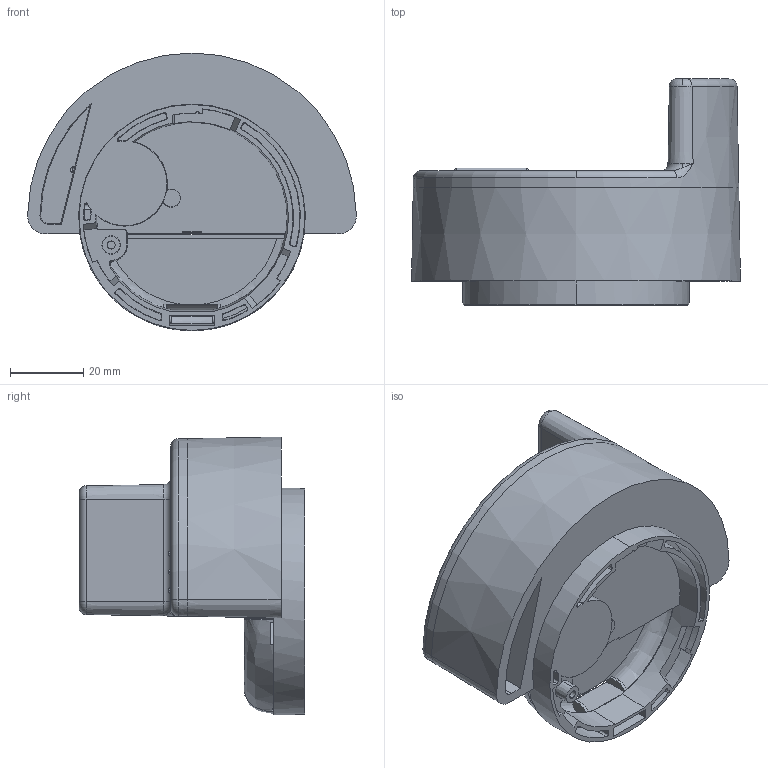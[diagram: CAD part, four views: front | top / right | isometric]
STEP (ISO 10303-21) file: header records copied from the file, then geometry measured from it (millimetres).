
FILE_DESCRIPTION (( 'STEP AP203' ), '1' );
FILE_NAME ('IWM-TX3 - modulo radio GM.STEP', '2018-05-23T14:31:35', ( '' ), ( '' ), 'SwSTEP 2.0', 'SolidWorks 2018', '' );
FILE_SCHEMA (( 'CONFIG_CONTROL_DESIGN' ));
Length unit declared in the file: millimetre
Products named in the file (1): IWM-TX3 - modulo radio GM
Bounding box: 89.49 x 61.5 x 75.65 mm (x, y, z)
Surface area: 26036 mm2 (no closed solid volume)
Topology: 0 solids, 4 shells, 202 faces, 674 edges, 462 vertices
Faces by surface type: plane 74, cone 50, bspline 36, torus 22, cylinder 20
Entity records: 8858 total; most frequent: CARTESIAN_POINT 3386, ORIENTED_EDGE 1151, DIRECTION 1024, EDGE_CURVE 672, VERTEX_POINT 462, AXIS2_PLACEMENT_3D 404, CIRCLE 237, EDGE_LOOP 223
